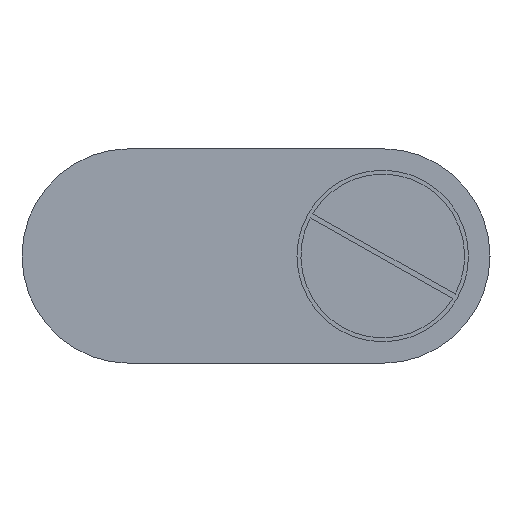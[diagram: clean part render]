
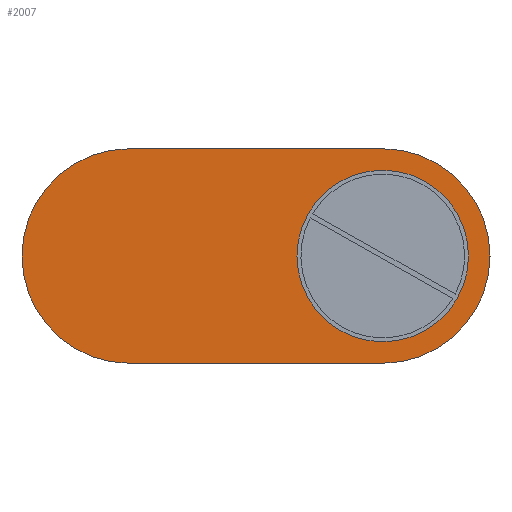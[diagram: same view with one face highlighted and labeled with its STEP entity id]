
A CAD part, front view. The second image highlights one B-rep face of the part: STEP entity #2007.
In plain terms, the highlighted planar face has unit normal (0, -1, 0) as drawn and (0, 0, -1) by its records, which use the part's own axes.
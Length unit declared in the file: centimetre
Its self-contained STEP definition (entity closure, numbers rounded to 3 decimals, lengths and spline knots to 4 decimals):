
#790=CIRCLE('',#2085,3.4925);
#791=CIRCLE('',#2088,3.4925);
#793=CIRCLE('',#2092,2.794);
#868=VERTEX_POINT('',#2628);
#869=VERTEX_POINT('',#2630);
#870=VERTEX_POINT('',#2634);
#871=VERTEX_POINT('',#2638);
#873=VERTEX_POINT('',#2646);
#1005=VECTOR('',#2270,1.);
#1007=VECTOR('',#2277,1.);
#1153=LINE('',#2635,#1005);
#1155=LINE('',#2641,#1007);
#1305=EDGE_CURVE('',#868,#869,#790,.T.);
#1308=EDGE_CURVE('',#870,#868,#1153,.T.);
#1310=EDGE_CURVE('',#871,#870,#791,.T.);
#1311=EDGE_CURVE('',#869,#871,#1155,.T.);
#1313=EDGE_CURVE('',#873,#873,#793,.T.);
#1551=ORIENTED_EDGE('',*,*,#1313,.T.);
#1552=ORIENTED_EDGE('',*,*,#1308,.F.);
#1553=ORIENTED_EDGE('',*,*,#1310,.F.);
#1554=ORIENTED_EDGE('',*,*,#1311,.F.);
#1555=ORIENTED_EDGE('',*,*,#1305,.F.);
#1818=EDGE_LOOP('',(#1551));
#1819=EDGE_LOOP('',(#1552,#1553,#1554,#1555));
#1914=FACE_BOUND('',#1818,.T.);
#1915=FACE_BOUND('',#1819,.T.);
#2007=ADVANCED_FACE('',(#1914,#1915),#2935,.F.);
#2085=AXIS2_PLACEMENT_3D('',#2629,#2265,#2266);
#2088=AXIS2_PLACEMENT_3D('',#2639,#2274,#2275);
#2092=AXIS2_PLACEMENT_3D('',#2645,#2282,#2283);
#2094=AXIS2_PLACEMENT_3D('',#2648,#2285,$);
#2265=DIRECTION('',(0.,0.,1.));
#2266=DIRECTION('',(3.493,0.,0.));
#2270=DIRECTION('',(0.,1.,0.));
#2274=DIRECTION('',(0.,0.,1.));
#2275=DIRECTION('',(3.493,0.,0.));
#2277=DIRECTION('',(0.,-1.,0.));
#2282=DIRECTION('',(0.,0.,1.));
#2283=DIRECTION('',(2.794,0.,0.));
#2285=DIRECTION('',(0.,0.,1.));
#2628=CARTESIAN_POINT('',(6.8057,11.6082,0.));
#2629=CARTESIAN_POINT('',(3.3132,11.6082,0.));
#2630=CARTESIAN_POINT('',(-0.1793,11.6082,0.));
#2634=CARTESIAN_POINT('',(6.8057,3.3532,0.));
#2635=CARTESIAN_POINT('',(6.8057,3.3532,0.));
#2638=CARTESIAN_POINT('',(-0.1793,3.3532,0.));
#2639=CARTESIAN_POINT('',(3.3132,3.3532,0.));
#2641=CARTESIAN_POINT('',(-0.1793,11.6082,0.));
#2645=CARTESIAN_POINT('',(3.3132,3.3532,0.));
#2646=CARTESIAN_POINT('',(6.1072,3.3532,0.));
#2648=CARTESIAN_POINT('',(3.3132,7.4807,0.));
#2935=PLANE('',#2094);
